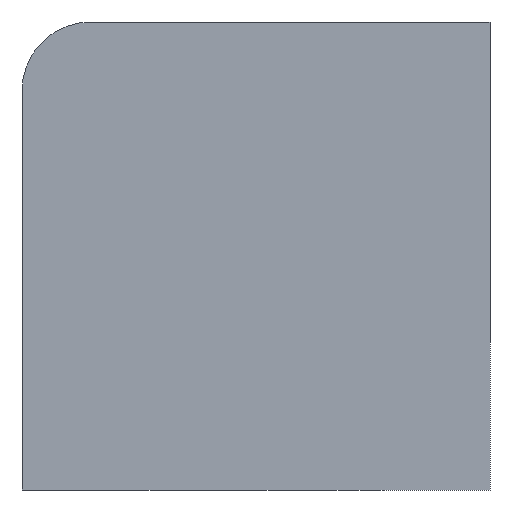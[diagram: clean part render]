
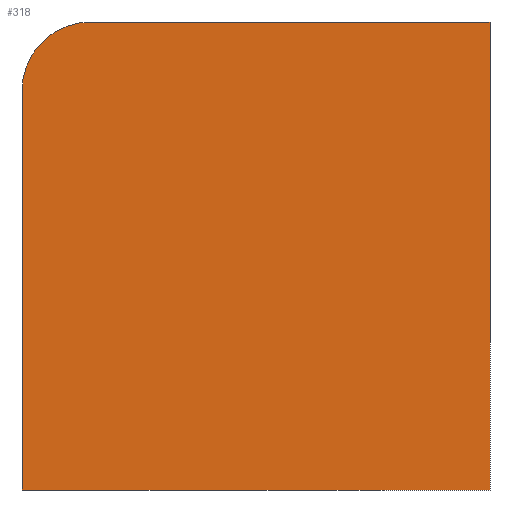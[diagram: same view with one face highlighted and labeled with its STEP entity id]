
A CAD part, left-side view. The second image highlights one B-rep face of the part: STEP entity #318.
In plain terms, the highlighted planar face has unit normal (-1, 0, 0).
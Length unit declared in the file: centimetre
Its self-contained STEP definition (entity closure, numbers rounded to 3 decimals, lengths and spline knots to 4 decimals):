
#11 = VECTOR ( 'NONE', #35, 100. ) ;
#13 = VERTEX_POINT ( 'NONE', #292 ) ;
#19 = CARTESIAN_POINT ( 'NONE',  ( 0., 853.5429, 1000. ) ) ;
#35 = DIRECTION ( 'NONE',  ( 0., 0., -1. ) ) ;
#41 = PLANE ( 'NONE',  #559 ) ;
#42 = ORIENTED_EDGE ( 'NONE', *, *, #196, .T. ) ;
#45 = EDGE_CURVE ( 'NONE', #49, #402, #375, .T. ) ;
#49 = VERTEX_POINT ( 'NONE', #19 ) ;
#58 = ORIENTED_EDGE ( 'NONE', *, *, #45, .F. ) ;
#76 = EDGE_LOOP ( 'NONE', ( #58, #42, #270, #473, #523 ) ) ;
#92 = VECTOR ( 'NONE', #461, 100. ) ;
#94 = VECTOR ( 'NONE', #491, 100. ) ;
#105 = DIRECTION ( 'NONE',  ( 0., 0., -1. ) ) ;
#119 = LINE ( 'NONE', #299, #131 ) ;
#122 = DIRECTION ( 'NONE',  ( 0., 0., -1. ) ) ;
#131 = VECTOR ( 'NONE', #122, 100. ) ;
#151 = EDGE_CURVE ( 'NONE', #402, #13, #388, .T. ) ;
#156 = CARTESIAN_POINT ( 'NONE',  ( 0., 1000., 0. ) ) ;
#196 = EDGE_CURVE ( 'NONE', #49, #277, #462, .T. ) ;
#231 = CARTESIAN_POINT ( 'NONE',  ( 0., 1000., 0. ) ) ;
#252 = CARTESIAN_POINT ( 'NONE',  ( 0., 1000., 853.5429 ) ) ;
#261 = CARTESIAN_POINT ( 'NONE',  ( 0., 0., 1000. ) ) ;
#270 = ORIENTED_EDGE ( 'NONE', *, *, #303, .T. ) ;
#277 = VERTEX_POINT ( 'NONE', #252 ) ;
#290 = LINE ( 'NONE', #156, #92 ) ;
#292 = CARTESIAN_POINT ( 'NONE',  ( 0., 0., 0. ) ) ;
#297 = CARTESIAN_POINT ( 'NONE',  ( 0., 853.5429, 853.5429 ) ) ;
#299 = CARTESIAN_POINT ( 'NONE',  ( 0., 1000., 1000. ) ) ;
#303 = EDGE_CURVE ( 'NONE', #277, #316, #119, .T. ) ;
#316 = VERTEX_POINT ( 'NONE', #231 ) ;
#318 = ADVANCED_FACE ( 'NONE', ( #391 ), #41, .F. ) ;
#320 = CARTESIAN_POINT ( 'NONE',  ( 0., 1000., 1000. ) ) ;
#324 = CARTESIAN_POINT ( 'NONE',  ( 0., 0., 1000. ) ) ;
#344 = DIRECTION ( 'NONE',  ( 0., 0., -1. ) ) ;
#364 = AXIS2_PLACEMENT_3D ( 'NONE', #297, #472, #344 ) ;
#375 = LINE ( 'NONE', #498, #94 ) ;
#388 = LINE ( 'NONE', #261, #11 ) ;
#391 = FACE_OUTER_BOUND ( 'NONE', #76, .T. ) ;
#402 = VERTEX_POINT ( 'NONE', #324 ) ;
#461 = DIRECTION ( 'NONE',  ( 0., -1., 0. ) ) ;
#462 = CIRCLE ( 'NONE', #364, 146.4571 ) ;
#472 = DIRECTION ( 'NONE',  ( -1., 0., 0. ) ) ;
#473 = ORIENTED_EDGE ( 'NONE', *, *, #527, .T. ) ;
#491 = DIRECTION ( 'NONE',  ( 0., -1., 0. ) ) ;
#498 = CARTESIAN_POINT ( 'NONE',  ( 0., 1000., 1000. ) ) ;
#519 = DIRECTION ( 'NONE',  ( 1., 0., 0. ) ) ;
#523 = ORIENTED_EDGE ( 'NONE', *, *, #151, .F. ) ;
#527 = EDGE_CURVE ( 'NONE', #316, #13, #290, .T. ) ;
#559 = AXIS2_PLACEMENT_3D ( 'NONE', #320, #519, #105 ) ;
